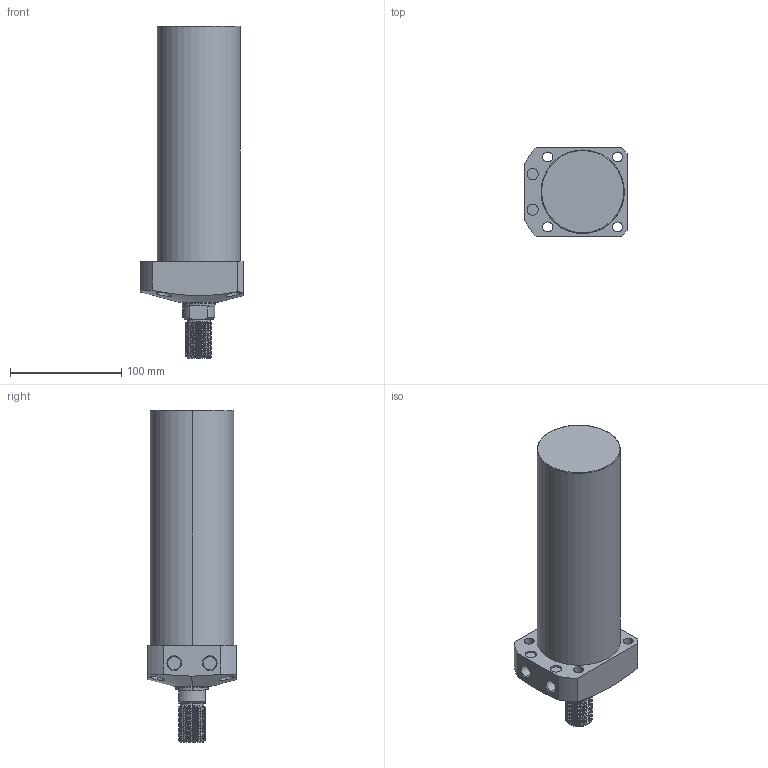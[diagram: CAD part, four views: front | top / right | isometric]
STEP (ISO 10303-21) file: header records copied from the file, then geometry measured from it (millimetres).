
FILE_DESCRIPTION (( 'STEP AP203' ), '1' );
FILE_NAME ('CLL-075CT-175.STEP', '2020-01-08T12:15:51', ( '' ), ( '' ), 'SwSTEP 2.0', 'SolidWorks 2015', '' );
FILE_SCHEMA (( 'CONFIG_CONTROL_DESIGN' ));
Length unit declared in the file: millimetre
Products named in the file (1): CLL-075CT-175
Bounding box: 92 x 80 x 299 mm (x, y, z)
Volume: 1177766.6 mm3; surface area: 84837.6 mm2
Topology: 1 solids, 1 shells, 121 faces, 310 edges, 202 vertices
Faces by surface type: cylinder 77, plane 23, cone 17, torus 2, bspline 2
Entity records: 6544 total; most frequent: CARTESIAN_POINT 3754, ORIENTED_EDGE 620, DIRECTION 517, EDGE_CURVE 310, AXIS2_PLACEMENT_3D 204, VERTEX_POINT 202, EDGE_LOOP 140, FACE_OUTER_BOUND 121
